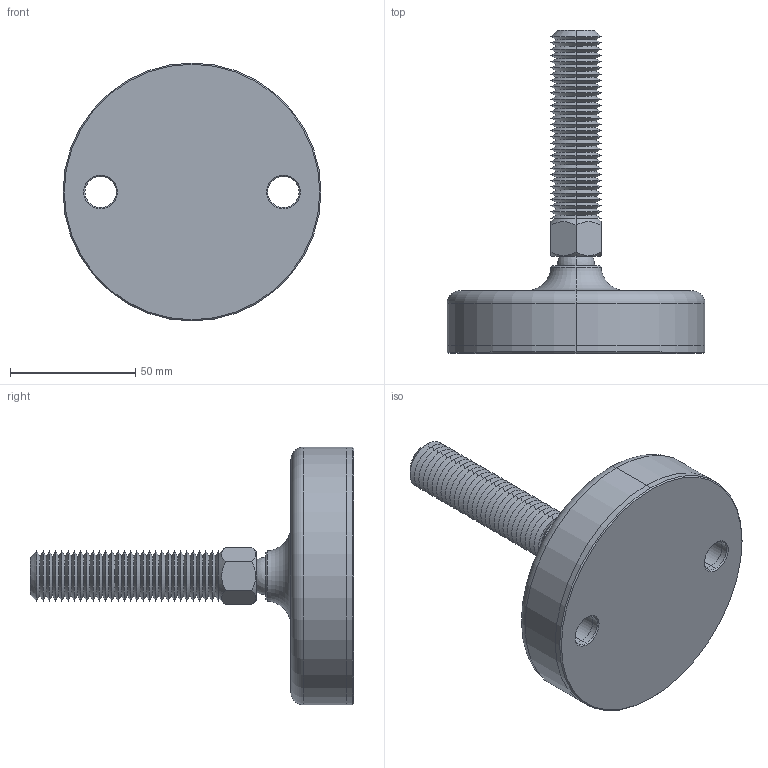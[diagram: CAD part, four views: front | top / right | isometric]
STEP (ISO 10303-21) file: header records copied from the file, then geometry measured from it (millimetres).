
FILE_DESCRIPTION (( 'STEP AP203' ), '1' );
FILE_NAME ('34724.W2007.step', '2019-11-28T22:17:29', ( '' ), ( '' ), 'SwSTEP 2.0', 'SolidWorks 2017', '' );
FILE_SCHEMA (( 'CONFIG_CONTROL_DESIGN' ));
Length unit declared in the file: millimetre
Products named in the file (4): 34724.W2007; Part2_34724.W2007; Part3_34724.W2007; Part1_34724.W2007
Assembly tree (3 placements, depth 2):
  34724.W2007
    Part1_34724.W2007
    Part2_34724.W2007
    Part3_34724.W2007
Bounding box: 103 x 129 x 103 mm (x, y, z)
Volume: 229754.3 mm3; surface area: 52483 mm2
Topology: 3 solids, 3 shells, 168 faces, 351 edges, 189 vertices
Faces by surface type: cone 134, plane 14, cylinder 12, sphere 4, torus 4
Entity records: 4866 total; most frequent: DIRECTION 856, CARTESIAN_POINT 852, ORIENTED_EDGE 684, AXIS2_PLACEMENT_3D 352, EDGE_CURVE 342, VERTEX_POINT 184, EDGE_LOOP 180, CIRCLE 178
